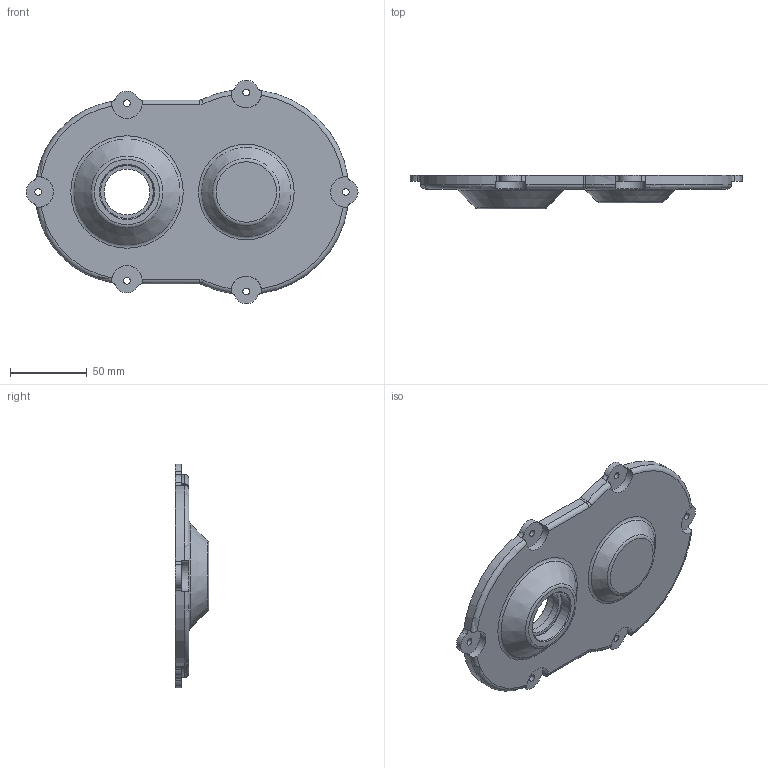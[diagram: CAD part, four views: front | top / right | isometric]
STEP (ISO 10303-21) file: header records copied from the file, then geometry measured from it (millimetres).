
FILE_DESCRIPTION(/* description */ (''),/* implementation_level */ '2;1');
FILE_NAME(/* name */ '',/* time_stamp */ '2025-09-02T10:37:40+09:00',/* author */ ('jhkim'),/* organization */ (''),/* preprocessor_version */ 'ST-DEVELOPER v20.1',/* originating_system */ 'Autodesk Inventor 2026',/* authorisation */ '');
FILE_SCHEMA (('AUTOMOTIVE_DESIGN { 1 0 10303 214 3 1 1 }'));
Length unit declared in the file: millimetre
Products named in the file (1): 커버
Bounding box: 217 x 22 x 146 mm (x, y, z)
Volume: 215562.3 mm3; surface area: 54265.1 mm2
Topology: 1 solids, 1 shells, 82 faces, 216 edges, 142 vertices
Faces by surface type: cylinder 45, plane 16, torus 16, cone 5
Full cylindrical faces by diameter (mm): 4.5 x6, 30 x1, 32 x1, 35 x1, 37 x2
Entity records: 2789 total; most frequent: CARTESIAN_POINT 569, DIRECTION 512, ORIENTED_EDGE 432, AXIS2_PLACEMENT_3D 225, EDGE_CURVE 216, CIRCLE 142, VERTEX_POINT 142, EDGE_LOOP 102
